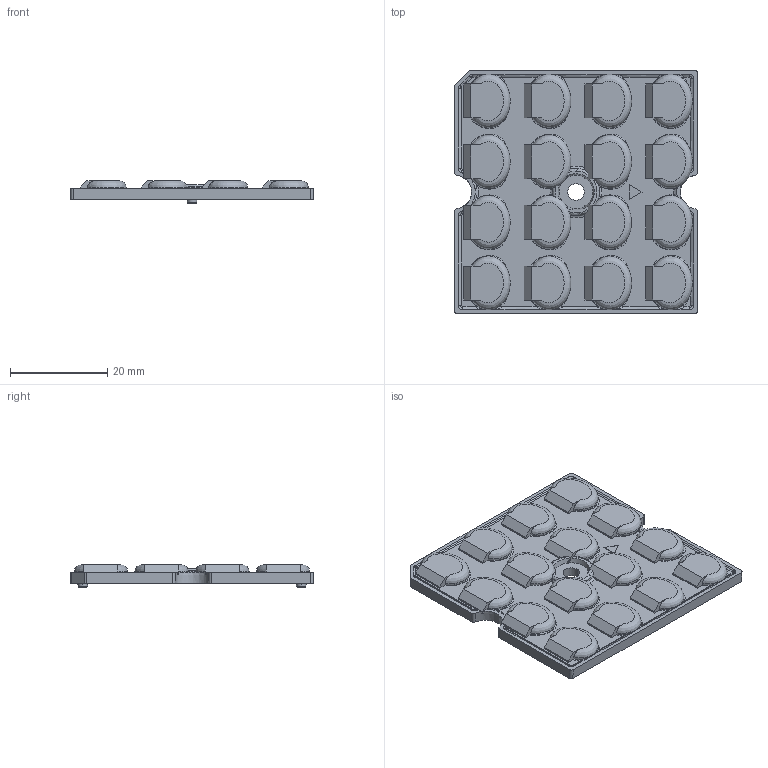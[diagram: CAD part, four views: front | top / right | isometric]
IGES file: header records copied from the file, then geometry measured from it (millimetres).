
Global section: file name: C:\CoreTechnologie\3D-In/022YR02Y09.igs; native system: CT CoreTechnologie 3D Evolution; preprocessor: 2006; date: 1200809.095123; units: millimetre
Bounding box: 50 x 50 x 4.63 mm (x, y, z)
Volume: 6407.1 mm3; surface area: 6638.5 mm2
Topology: 1 solids, 1 shells, 848 faces, 2328 edges, 1527 vertices
Faces by surface type: plane 372, revolution 255, bspline 221
